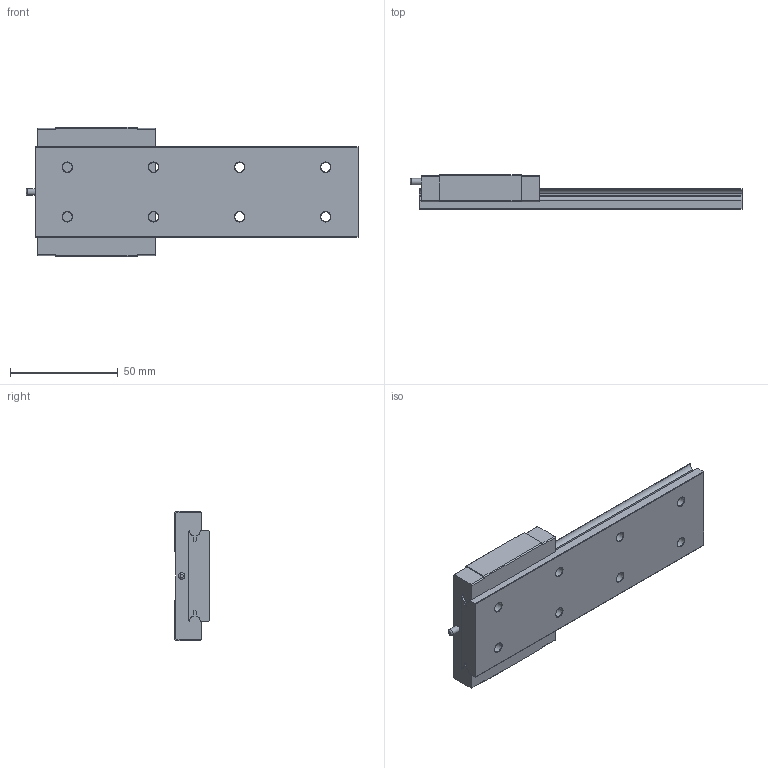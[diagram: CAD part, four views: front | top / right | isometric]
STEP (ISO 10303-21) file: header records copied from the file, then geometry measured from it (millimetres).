
FILE_DESCRIPTION( ( 'STEP AP214' ), '1' );
FILE_NAME( 'C:/Users/Futia/Documents/MLW15C.stp', '2021-11-04T07:05:15', ( 'License CC BY-ND 4.0' ), ( 'CADENAS' ), ' ', 'PARTsolutions', ' ' );
FILE_SCHEMA( ( 'AUTOMOTIVE_DESIGN { 1 0 10303 214 1 1 1 1 }' ) );
Length unit declared in the file: millimetre
Products named in the file (3): SWCC-H16-1-L150-E15; _SWCC-H16-1-L150-E15_SWCC_GUIDERAIL; _SWCC-H16-1-L150-E15_SWCC_BLOCK
Assembly tree (2 placements, depth 2):
  SWCC-H16-1-L150-E15
    _SWCC-H16-1-L150-E15_SWCC_GUIDERAIL
    _SWCC-H16-1-L150-E15_SWCC_BLOCK
Bounding box: 154.2 x 16 x 60 mm (x, y, z)
Volume: 81190.2 mm3; surface area: 30044 mm2
Topology: 2 solids, 2 shells, 135 faces, 333 edges, 215 vertices
Faces by surface type: plane 73, cylinder 41, cone 20, torus 1
Full cylindrical faces by diameter (mm): 3 x1, 3.242 x4, 4.51 x8, 8.01 x8
Entity records: 4938 total; most frequent: DIRECTION 670, CARTESIAN_POINT 644, ORIENTED_EDGE 582, EDGE_CURVE 291, AXIS2_PLACEMENT_3D 241, VERTEX_POINT 215, EDGE_LOOP 206, LINE 188
